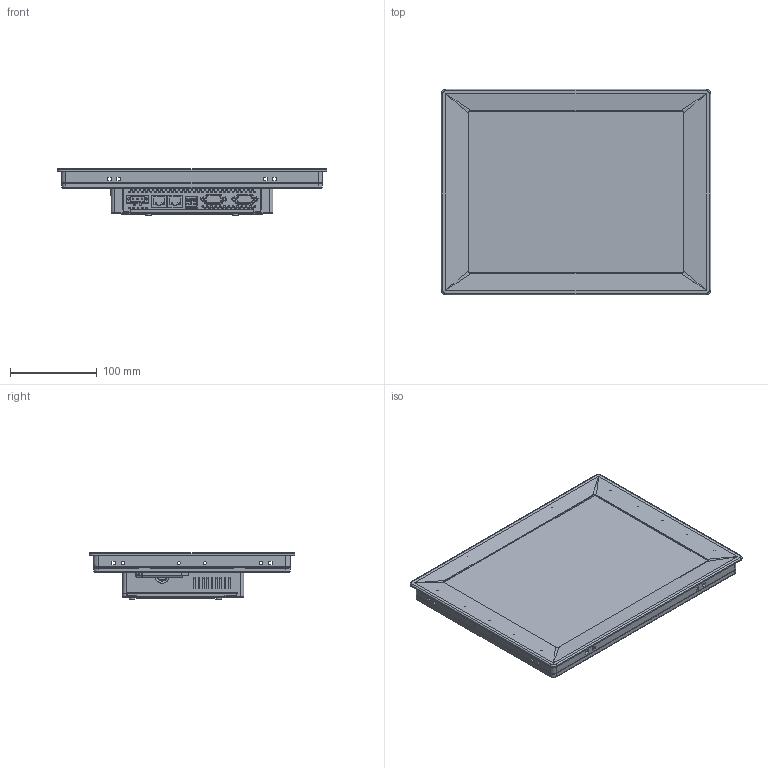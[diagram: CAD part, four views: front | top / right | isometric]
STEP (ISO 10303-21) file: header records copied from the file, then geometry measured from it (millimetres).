
FILE_DESCRIPTION((''),'2;1');
FILE_NAME('CU_NI_TPC-2212','2011-11-30T',('jpfaff'),(''),'PRO/ENGINEER BY PARAMETRIC TECHNOLOGY CORPORATION, 2010230','PRO/ENGINEER BY PARAMETRIC TECHNOLOGY CORPORATION, 2010230','');
FILE_SCHEMA(('CONFIG_CONTROL_DESIGN'));
Products named in the file (1): CU_NI_TPC-2212
Bounding box: 311 x 237 x 53.92 mm (x, y, z)
Volume: 378071 mm3; surface area: 455496.1 mm2
Topology: 7 solids, 7 shells, 4290 faces, 11750 edges, 7545 vertices
Faces by surface type: plane 2261, cylinder 1461, cone 218, extrusion 146, torus 128, bspline 54, sphere 20, revolution 2
Entity records: 149568 total; most frequent: CARTESIAN_POINT 37913, ORIENTED_EDGE 23456, DIRECTION 22857, EDGE_CURVE 11728, VECTOR 7843, LINE 7697, VERTEX_POINT 7545, AXIS2_PLACEMENT_3D 7506
